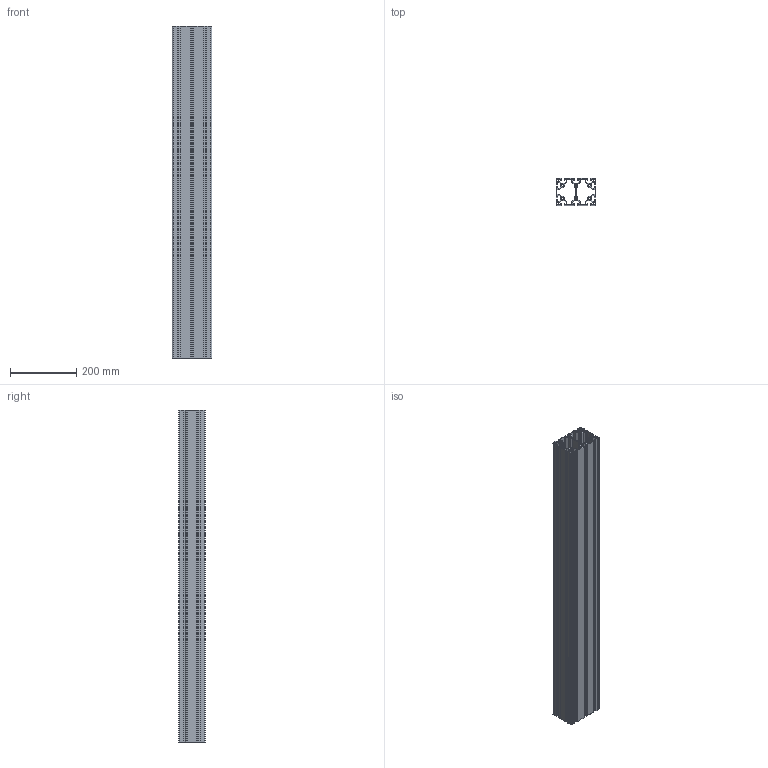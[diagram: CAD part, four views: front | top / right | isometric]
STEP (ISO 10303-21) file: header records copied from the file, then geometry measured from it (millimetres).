
FILE_DESCRIPTION (( 'STEP AP214' ), '1' );
FILE_NAME ('80õ120L.STEP', '2019-12-18T12:33:52', ( '' ), ( '' ), 'SwSTEP 2.0', 'SolidWorks 2014', '' );
FILE_SCHEMA (( 'AUTOMOTIVE_DESIGN' ));
Length unit declared in the file: millimetre
Products named in the file (2): 80õ120L
Bounding box: 120 x 80 x 1000 mm (x, y, z)
Volume: 1809333.6 mm3; surface area: 1624514.2 mm2
Topology: 1 solids, 1 shells, 388 faces, 1158 edges, 772 vertices
Faces by surface type: plane 284, cylinder 104
Entity records: 13051 total; most frequent: CARTESIAN_POINT 2320, ORIENTED_EDGE 2316, DIRECTION 2146, EDGE_CURVE 1158, VECTOR 950, LINE 950, VERTEX_POINT 772, AXIS2_PLACEMENT_3D 598
